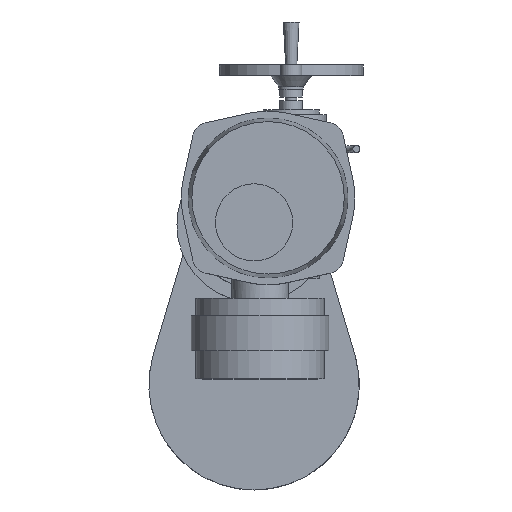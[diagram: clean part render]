
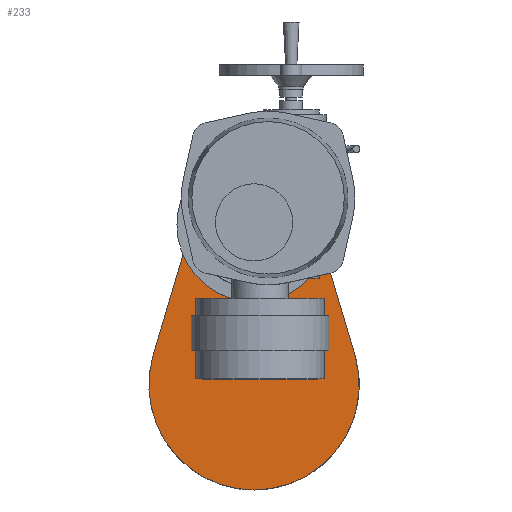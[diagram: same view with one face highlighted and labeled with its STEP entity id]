
A CAD part, top view. The second image highlights one B-rep face of the part: STEP entity #233.
In plain terms, the highlighted planar face has unit normal (0, 0, 1).
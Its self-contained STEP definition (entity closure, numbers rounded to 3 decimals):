
#233=ADVANCED_FACE('',(#1406),#1408,.F.);
#1406=FACE_BOUND('',#1407,.T.);
#1407=EDGE_LOOP('',(#2299,#2300,#2301,#2302,#2303));
#1408=PLANE('',#1409);
#1409=AXIS2_PLACEMENT_3D('',#1410,#1411,#1412);
#1410=CARTESIAN_POINT('',(0.,0.,-224.));
#1411=DIRECTION('',(0.,0.,-1.));
#1412=DIRECTION('',(0.,1.,0.));
#2299=ORIENTED_EDGE('',*,*,#2742,.T.);
#2300=ORIENTED_EDGE('',*,*,#2743,.T.);
#2301=ORIENTED_EDGE('',*,*,#2744,.F.);
#2302=ORIENTED_EDGE('',*,*,#2722,.F.);
#2303=ORIENTED_EDGE('',*,*,#2745,.F.);
#2722=EDGE_CURVE('',#2972,#2973,#2974,.T.);
#2742=EDGE_CURVE('',#3012,#3013,#3014,.F.);
#2743=EDGE_CURVE('',#3013,#3015,#3016,.F.);
#2744=EDGE_CURVE('',#2973,#3015,#3017,.T.);
#2745=EDGE_CURVE('',#3012,#2972,#3018,.T.);
#2972=VERTEX_POINT('',#3438);
#2973=VERTEX_POINT('',#3439);
#2974=CIRCLE('',#3440,150.);
#3012=VERTEX_POINT('',#3536);
#3013=VERTEX_POINT('',#3537);
#3014=CIRCLE('',#3538,85.);
#3015=VERTEX_POINT('',#3542);
#3016=CIRCLE('',#3543,85.);
#3017=LINE('',#3547,#3548);
#3018=LINE('',#3550,#3551);
#3438=CARTESIAN_POINT('',(123.775,-223.237,-224.));
#3439=CARTESIAN_POINT('',(-163.775,-223.237,-224.));
#3440=AXIS2_PLACEMENT_3D('',#3441,#3442,#3443);
#3441=CARTESIAN_POINT('',(-20.,-266.,-224.));
#3442=DIRECTION('',(0.,0.,-1.));
#3443=DIRECTION('',(0.959,0.285,0.));
#3536=CARTESIAN_POINT('',(61.473,-13.768,-224.));
#3537=CARTESIAN_POINT('',(-20.,-123.,-224.));
#3538=AXIS2_PLACEMENT_3D('',#3539,#3540,#3541);
#3539=CARTESIAN_POINT('',(-20.,-38.,-224.));
#3540=DIRECTION('',(0.,0.,1.));
#3541=DIRECTION('',(0.,-1.,0.));
#3542=CARTESIAN_POINT('',(-101.473,-13.768,-224.));
#3543=AXIS2_PLACEMENT_3D('',#3544,#3545,#3546);
#3544=CARTESIAN_POINT('',(-20.,-38.,-224.));
#3545=DIRECTION('',(0.,0.,1.));
#3546=DIRECTION('',(-0.959,0.285,0.));
#3547=CARTESIAN_POINT('',(-163.775,-223.237,-224.));
#3548=VECTOR('',#3549,1.);
#3549=DIRECTION('',(0.285,0.959,0.));
#3550=CARTESIAN_POINT('',(61.473,-13.768,-224.));
#3551=VECTOR('',#3552,1.);
#3552=DIRECTION('',(0.285,-0.959,0.));
